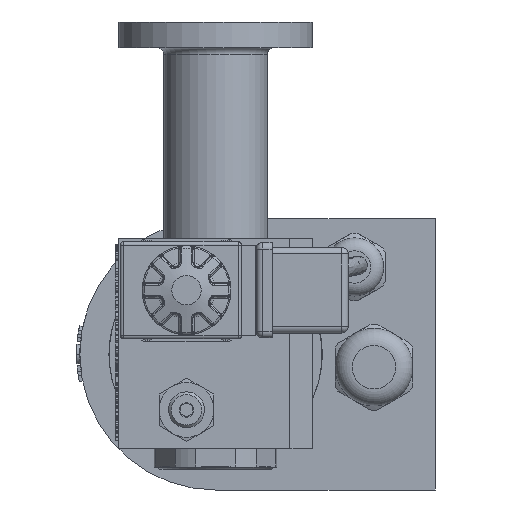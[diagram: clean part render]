
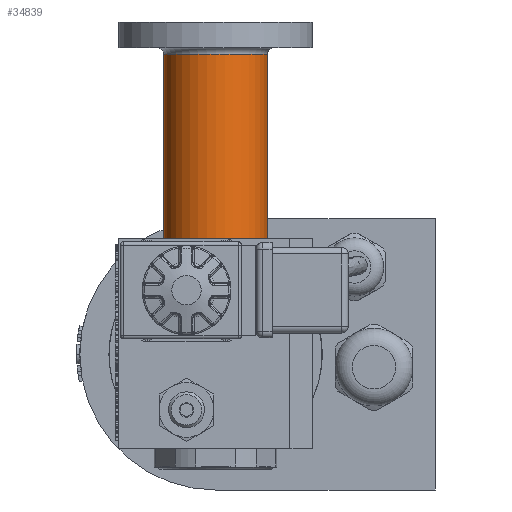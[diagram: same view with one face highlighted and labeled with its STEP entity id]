
A CAD part, left-side view. The second image highlights one B-rep face of the part: STEP entity #34839.
In plain terms, the highlighted cylindrical face has radius 16 mm (diameter 32 mm), a full revolution.
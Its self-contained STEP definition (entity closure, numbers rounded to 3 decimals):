
#586=CYLINDRICAL_SURFACE('',#36599,16.);
#922=CIRCLE('',#36518,16.);
#923=CIRCLE('',#36519,16.);
#972=CIRCLE('',#36592,16.);
#974=CIRCLE('',#36594,16.);
#975=CIRCLE('',#36595,16.);
#4959=FACE_OUTER_BOUND('',#7076,.T.);
#7076=EDGE_LOOP('',(#30023,#30024,#30025,#30026,#30027,#30028,#30029));
#10198=LINE('',#63051,#13037);
#13037=VECTOR('',#42464,16.);
#16977=VERTEX_POINT('',#62868);
#16978=VERTEX_POINT('',#62869);
#17026=VERTEX_POINT('',#63039);
#17027=VERTEX_POINT('',#63040);
#17028=VERTEX_POINT('',#63043);
#21384=EDGE_CURVE('',#16977,#16978,#922,.T.);
#21385=EDGE_CURVE('',#16978,#16977,#923,.T.);
#21455=EDGE_CURVE('',#17026,#17027,#972,.T.);
#21457=EDGE_CURVE('',#17027,#17028,#974,.T.);
#21458=EDGE_CURVE('',#17028,#17026,#975,.T.);
#21460=EDGE_CURVE('',#17028,#16978,#10198,.T.);
#30023=ORIENTED_EDGE('',*,*,#21455,.F.);
#30024=ORIENTED_EDGE('',*,*,#21458,.F.);
#30025=ORIENTED_EDGE('',*,*,#21460,.T.);
#30026=ORIENTED_EDGE('',*,*,#21384,.F.);
#30027=ORIENTED_EDGE('',*,*,#21385,.F.);
#30028=ORIENTED_EDGE('',*,*,#21460,.F.);
#30029=ORIENTED_EDGE('',*,*,#21457,.F.);
#34839=ADVANCED_FACE('',(#4959),#586,.T.);
#36518=AXIS2_PLACEMENT_3D('',#62870,#42281,#42282);
#36519=AXIS2_PLACEMENT_3D('',#62871,#42283,#42284);
#36592=AXIS2_PLACEMENT_3D('',#63041,#42447,#42448);
#36594=AXIS2_PLACEMENT_3D('',#63044,#42451,#42452);
#36595=AXIS2_PLACEMENT_3D('',#63045,#42453,#42454);
#36599=AXIS2_PLACEMENT_3D('',#63050,#42462,#42463);
#42281=DIRECTION('center_axis',(0.,0.,-1.));
#42282=DIRECTION('ref_axis',(0.,1.,0.));
#42283=DIRECTION('center_axis',(0.,0.,-1.));
#42284=DIRECTION('ref_axis',(0.,1.,0.));
#42447=DIRECTION('center_axis',(0.,0.,
1.));
#42448=DIRECTION('ref_axis',(0.,1.,0.));
#42451=DIRECTION('center_axis',(0.,0.,
1.));
#42452=DIRECTION('ref_axis',(0.,1.,0.));
#42453=DIRECTION('center_axis',(0.,0.,
1.));
#42454=DIRECTION('ref_axis',(0.,1.,0.));
#42462=DIRECTION('center_axis',(0.,0.,
1.));
#42463=DIRECTION('ref_axis',(0.,1.,0.));
#42464=DIRECTION('',(0.,0.,-1.));
#62868=CARTESIAN_POINT('',(0.,45.5,65.));
#62869=CARTESIAN_POINT('',(0.,13.5,65.));
#62870=CARTESIAN_POINT('Origin',(0.,29.5,65.));
#62871=CARTESIAN_POINT('Origin',(0.,29.5,65.));
#63039=CARTESIAN_POINT('',(0.,45.5,122.));
#63040=CARTESIAN_POINT('',(-16.,29.5,122.));
#63041=CARTESIAN_POINT('Origin',(0.,29.5,122.));
#63043=CARTESIAN_POINT('',(0.,13.5,122.));
#63044=CARTESIAN_POINT('Origin',(0.,29.5,122.));
#63045=CARTESIAN_POINT('Origin',(0.,29.5,122.));
#63050=CARTESIAN_POINT('Origin',(0.,29.5,69.));
#63051=CARTESIAN_POINT('',(0.,13.5,69.));
